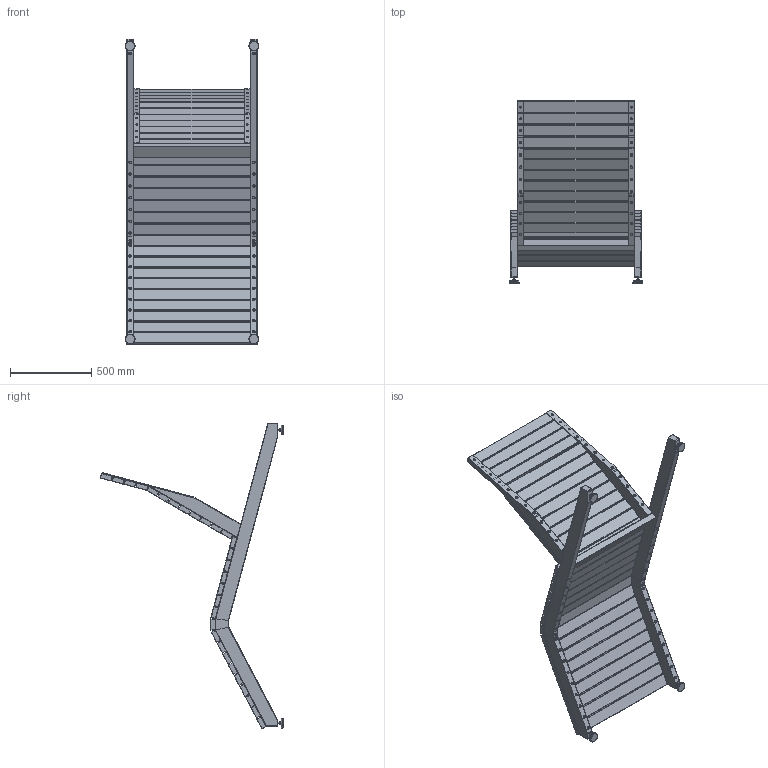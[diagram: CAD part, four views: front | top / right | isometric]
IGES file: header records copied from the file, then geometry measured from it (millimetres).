
Start section: SolidWorks IGES file using analytic representation for surfaces
Global section: file name: D:\TSETSO\SP\NL CHAIR\NLCHASM1.IGS; native system: SolidWorks 2019; preprocessor: SolidWorks 2019; author: tsetso; date: 190825.010136; units: millimetre
Bounding box: 820 x 1125.54 x 1877.45 mm (x, y, z)
Surface area: 7307160.5 mm2 (no closed solid volume)
Topology: 0 solids, 0 shells, 3433 faces, 34516 edges, 34305 vertices
Faces by surface type: bspline 1728, revolution 1705
